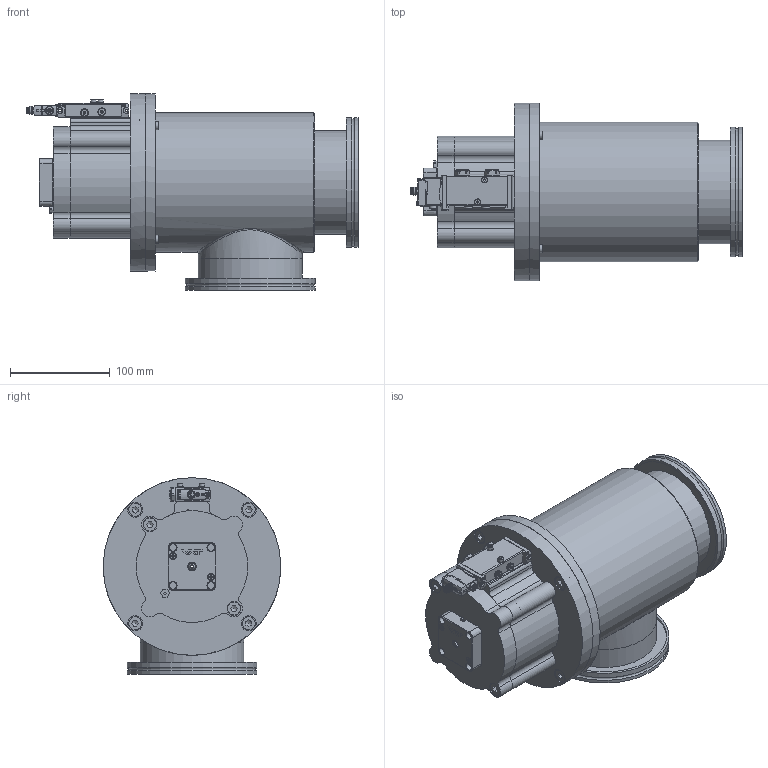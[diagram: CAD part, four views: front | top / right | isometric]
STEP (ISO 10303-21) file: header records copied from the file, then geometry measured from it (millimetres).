
FILE_DESCRIPTION(/* description */ (''),/* implementation_level */ '2;1');
FILE_NAME(/* name */ '1254151106_203.stp',/* time_stamp */ '2014-10-09T10:53:58+02:00',/* author */ (''),/* organization */ (''),/* preprocessor_version */ 'ST-DEVELOPER v11',/* originating_system */ 'SIEMENS PLM Software NX 7.5',/* authorisation */ '');
FILE_SCHEMA (('AP203_CONFIGURATION_CONTROLLED_3D_DESIGN_OF_MECHANICAL_PARTS_AND_ASSEMBLIES_MIM_LF'));
Length unit declared in the file: millimetre
Products named in the file (27): 517238; 513742; 517224; 517223; 517222; 517221; 233359; 236204_1.1; 366217; n-6134-404.1; n-6005-429.1; 571495; 538796; n-6121-026.2; 517625_18346ID; 224847.1; n-7636-200.2; 544232; 542372; 228777; 476060; 239983.3; 572183_MODEL; 517218_MODEL; 522001_MODEL; 561077_MODEL; 705428
Assembly tree (37 placements, depth 4):
  705428
    476060
    228777  x4
    542372
    561077_MODEL
      517625_18346ID
      n-6121-026.2  x2
    522001_MODEL
      517218_MODEL
        517221  x2
        517222
        517223
        517224
        513742
        517238
    544232
    n-7636-200.2
    572183_MODEL
      538796
      571495  x2
      n-6005-429.1  x2
      n-6134-404.1  x2
      366217  x2
    239983.3
      236204_1.1  x2
      233359
    224847.1  x2
Bounding box: 332.65 x 178 x 197 mm (x, y, z)
Volume: 1178942.2 mm3; surface area: 487152.1 mm2
Topology: 53 solids, 55 shells, 1563 faces, 3819 edges, 2472 vertices
Faces by surface type: plane 854, cylinder 456, cone 152, torus 53, bspline 21, extrusion 19, sphere 8
Full cylindrical faces by diameter (mm): 1 x3, 2.46 x2, 2.5 x7, 2.6 x2, 3 x11, 3.2 x4, 3.8 x1, 3.85 x2, 4.2 x2, 4.5 x1, 5 x1, 5.5 x2, 5.6 x3, 5.8 x1, 6 x4, 6.2 x2, 6.5 x2, 6.66 x6, 6.7 x6, 6.8 x8, 6.9 x1, 7.2 x1, 7.4 x3, 8 x16, 8.1 x1, 8.15 x2, 8.3 x6, 8.4 x1, 8.566 x5, 9 x4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
Entity records: 50691 total; most frequent: CARTESIAN_POINT 10340, DIRECTION 6798, ORIENTED_EDGE 6286, EDGE_CURVE 3143, AXIS2_PLACEMENT_3D 2550, VERTEX_POINT 2171, EDGE_LOOP 1830, VECTOR 1698
